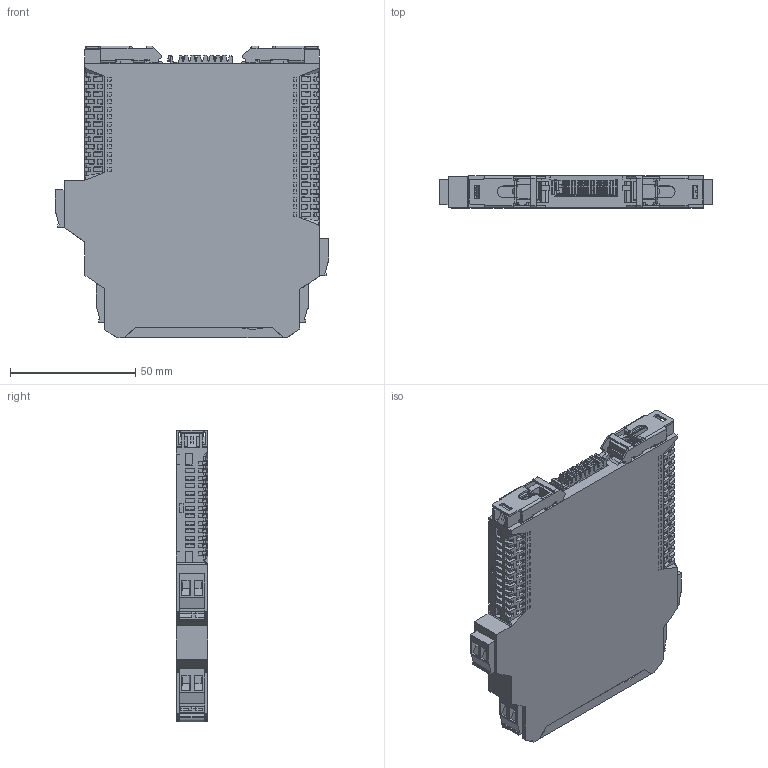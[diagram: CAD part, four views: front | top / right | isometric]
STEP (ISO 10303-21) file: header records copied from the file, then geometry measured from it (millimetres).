
FILE_DESCRIPTION((''),'2;1');
FILE_NAME('D:\ТЗ\Для отдела рекламы\БИГ\БИГ-1-1-11.stp','2024-07-08T10:22:04',('A.V.Dzhibladze'),(''),'Autodesk Inventor 2012','Autodesk Inventor 2012','');
FILE_SCHEMA(('AUTOMOTIVE_DESIGN { 1 2 10303 214 0 1 1 1 }'));
Length unit declared in the file: millimetre
Products named in the file (1): БИГ-1-1-11
Bounding box: 109.1 x 12.75 x 116.55 mm (x, y, z)
Volume: 130296.9 mm3; surface area: 37149 mm2
Topology: 2 solids, 7 shells, 2943 faces, 8272 edges, 5437 vertices
Faces by surface type: plane 2197, cylinder 679, bspline 52, sphere 6, torus 5, cone 4
Full cylindrical faces by diameter (mm): 2 x2, 2.05 x2, 2.7 x1, 3.6 x8
Entity records: 99189 total; most frequent: CARTESIAN_POINT 20553, ORIENTED_EDGE 16462, DIRECTION 15117, EDGE_CURVE 8231, VECTOR 6533, LINE 6533, VERTEX_POINT 5419, AXIS2_PLACEMENT_3D 4292
